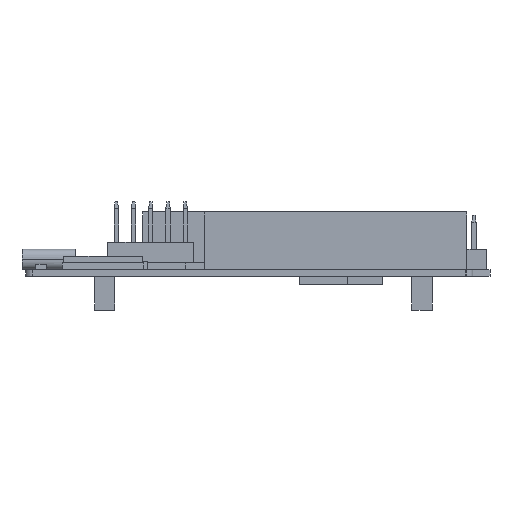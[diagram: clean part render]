
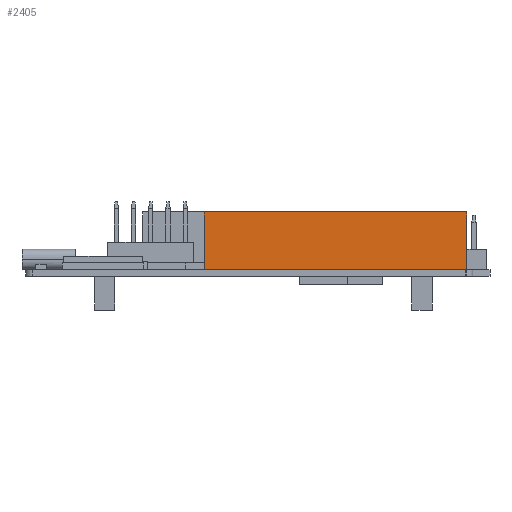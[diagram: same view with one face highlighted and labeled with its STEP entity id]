
A CAD part, front view. The second image highlights one B-rep face of the part: STEP entity #2405.
In plain terms, the highlighted planar face has unit normal (0, -1, 0).
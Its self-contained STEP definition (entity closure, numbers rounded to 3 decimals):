
#2405=ADVANCED_FACE('',(#3363),#14495,.T.);
#3363=FACE_OUTER_BOUND('',#4346,.T.);
#4346=EDGE_LOOP('',(#8292,#8293,#8294,#8295));
#8292=ORIENTED_EDGE('',*,*,#10307,.T.);
#8293=ORIENTED_EDGE('',*,*,#10308,.T.);
#8294=ORIENTED_EDGE('',*,*,#10309,.F.);
#8295=ORIENTED_EDGE('',*,*,#10310,.F.);
#10307=EDGE_CURVE('',#13614,#13615,#12300,.T.);
#10308=EDGE_CURVE('',#13615,#13616,#12301,.T.);
#10309=EDGE_CURVE('',#13617,#13616,#12302,.T.);
#10310=EDGE_CURVE('',#13614,#13617,#12303,.T.);
#12300=B_SPLINE_CURVE_WITH_KNOTS('',1,(#23166,#23167),.UNSPECIFIED.,.F.,
 .F.,(2,2),(-7.,-6.),.UNSPECIFIED.);
#12301=B_SPLINE_CURVE_WITH_KNOTS('',1,(#23168,#23169),.UNSPECIFIED.,.F.,
 .F.,(2,2),(0.,8.5),.UNSPECIFIED.);
#12302=B_SPLINE_CURVE_WITH_KNOTS('',1,(#23170,#23171),.UNSPECIFIED.,.F.,
 .F.,(2,2),(-7.,-6.),.UNSPECIFIED.);
#12303=B_SPLINE_CURVE_WITH_KNOTS('',1,(#23172,#23173),.UNSPECIFIED.,.F.,
 .F.,(2,2),(0.,8.5),.UNSPECIFIED.);
#13614=VERTEX_POINT('',#23158);
#13615=VERTEX_POINT('',#23159);
#13616=VERTEX_POINT('',#23160);
#13617=VERTEX_POINT('',#23161);
#14495=PLANE('',#15463);
#15463=AXIS2_PLACEMENT_3D('',#23152,#16334,$);
#16334=DIRECTION('',(0.,-1.,0.));
#23152=CARTESIAN_POINT('',(-438.684,85.599,16.934));
#23158=CARTESIAN_POINT('',(-438.684,85.599,16.934));
#23159=CARTESIAN_POINT('',(-399.986,85.599,16.934));
#23160=CARTESIAN_POINT('',(-399.986,85.599,25.434));
#23161=CARTESIAN_POINT('',(-438.684,85.599,25.434));
#23166=CARTESIAN_POINT('',(-438.684,85.599,16.934));
#23167=CARTESIAN_POINT('',(-399.986,85.599,16.934));
#23168=CARTESIAN_POINT('',(-399.986,85.599,16.934));
#23169=CARTESIAN_POINT('',(-399.986,85.599,25.434));
#23170=CARTESIAN_POINT('',(-438.684,85.599,25.434));
#23171=CARTESIAN_POINT('',(-399.986,85.599,25.434));
#23172=CARTESIAN_POINT('',(-438.684,85.599,16.934));
#23173=CARTESIAN_POINT('',(-438.684,85.599,25.434));
